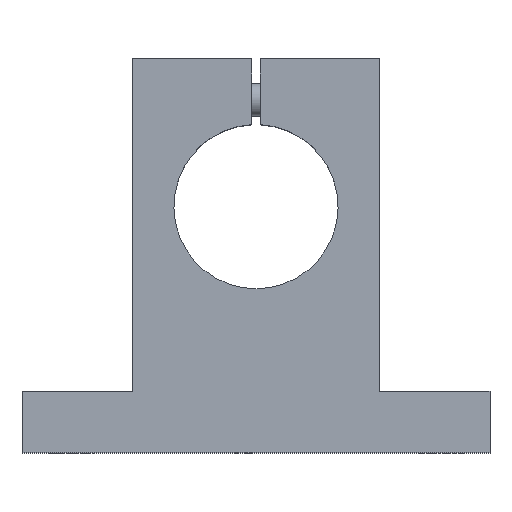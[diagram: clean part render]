
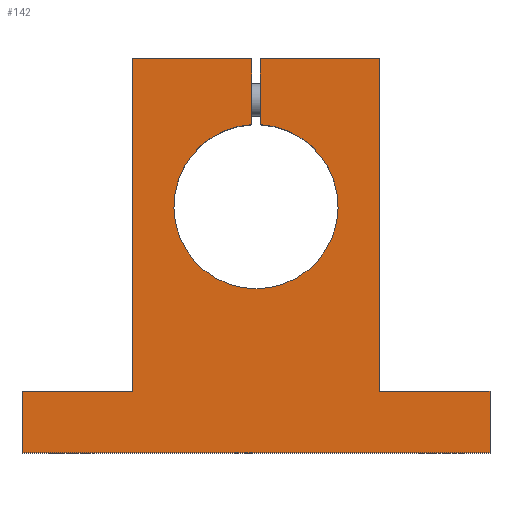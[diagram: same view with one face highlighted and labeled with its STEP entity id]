
A CAD part, top view. The second image highlights one B-rep face of the part: STEP entity #142.
In plain terms, the highlighted planar face has unit normal (0, 0, 1).
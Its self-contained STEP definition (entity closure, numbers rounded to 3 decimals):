
#142=ADVANCED_FACE('',(#210),#211,.F.);
#210=FACE_OUTER_BOUND('',#298,.T.);
#211=PLANE('',#299);
#298=EDGE_LOOP('',(#471,#472,#473,#474,#475,#476,#477,#478,#479,#480,#481,#482));
#299=AXIS2_PLACEMENT_3D('',#483,#484,#485);
#471=ORIENTED_EDGE('',*,*,#599,.T.);
#472=ORIENTED_EDGE('',*,*,#618,.T.);
#473=ORIENTED_EDGE('',*,*,#616,.T.);
#474=ORIENTED_EDGE('',*,*,#613,.T.);
#475=ORIENTED_EDGE('',*,*,#610,.T.);
#476=ORIENTED_EDGE('',*,*,#608,.T.);
#477=ORIENTED_EDGE('',*,*,#604,.T.);
#478=ORIENTED_EDGE('',*,*,#602,.T.);
#479=ORIENTED_EDGE('',*,*,#594,.T.);
#480=ORIENTED_EDGE('',*,*,#619,.T.);
#481=ORIENTED_EDGE('',*,*,#592,.T.);
#482=ORIENTED_EDGE('',*,*,#576,.T.);
#483=CARTESIAN_POINT('',(0.0,0.0,0.0));
#484=DIRECTION('',(0.0,0.0,-1.0));
#485=DIRECTION('',(0.0,-1.0,0.0));
#576=EDGE_CURVE('',#646,#647,#648,.T.);
#592=EDGE_CURVE('',#677,#646,#678,.T.);
#594=EDGE_CURVE('',#680,#681,#682,.T.);
#599=EDGE_CURVE('',#647,#689,#690,.T.);
#602=EDGE_CURVE('',#694,#680,#695,.T.);
#604=EDGE_CURVE('',#697,#694,#698,.T.);
#608=EDGE_CURVE('',#704,#697,#705,.T.);
#610=EDGE_CURVE('',#707,#704,#708,.T.);
#613=EDGE_CURVE('',#712,#707,#713,.T.);
#616=EDGE_CURVE('',#717,#712,#718,.T.);
#618=EDGE_CURVE('',#689,#717,#720,.T.);
#619=EDGE_CURVE('',#681,#677,#721,.T.);
#646=VERTEX_POINT('',#768);
#647=VERTEX_POINT('',#769);
#648=CIRCLE('',#770,20.0);
#677=VERTEX_POINT('',#812);
#678=LINE('',#813,#814);
#680=VERTEX_POINT('',#817);
#681=VERTEX_POINT('',#818);
#682=LINE('',#819,#820);
#689=VERTEX_POINT('',#829);
#690=LINE('',#830,#831);
#694=VERTEX_POINT('',#836);
#695=LINE('',#837,#838);
#697=VERTEX_POINT('',#841);
#698=LINE('',#842,#843);
#704=VERTEX_POINT('',#850);
#705=LINE('',#851,#852);
#707=VERTEX_POINT('',#855);
#708=LINE('',#856,#857);
#712=VERTEX_POINT('',#862);
#713=LINE('',#863,#864);
#717=VERTEX_POINT('',#869);
#718=LINE('',#870,#871);
#720=LINE('',#874,#875);
#721=LINE('',#876,#877);
#768=CARTESIAN_POINT('',(1.0,19.975,0.0));
#769=CARTESIAN_POINT('',(-1.,19.975,0.0));
#770=AXIS2_PLACEMENT_3D('',#975,#976,#977);
#812=CARTESIAN_POINT('',(1.0,36.0,0.0));
#813=CARTESIAN_POINT('',(1.0,36.0,0.0));
#814=VECTOR('',#997,1.0);
#817=CARTESIAN_POINT('',(30.0,-45.0,0.0));
#818=CARTESIAN_POINT('',(30.0,36.0,0.0));
#819=CARTESIAN_POINT('',(30.0,-45.0,0.0));
#820=VECTOR('',#999,1.0);
#829=CARTESIAN_POINT('',(-1.0,36.0,0.0));
#830=CARTESIAN_POINT('',(-1.0,19.975,0.0));
#831=VECTOR('',#1008,1.0);
#836=CARTESIAN_POINT('',(57.0,-45.0,0.0));
#837=CARTESIAN_POINT('',(57.0,-45.0,0.0));
#838=VECTOR('',#1013,1.0);
#841=CARTESIAN_POINT('',(57.0,-60.0,0.0));
#842=CARTESIAN_POINT('',(57.0,-60.0,0.0));
#843=VECTOR('',#1015,1.0);
#850=CARTESIAN_POINT('',(-57.0,-60.0,0.0));
#851=CARTESIAN_POINT('',(-57.0,-60.0,0.0));
#852=VECTOR('',#1023,1.0);
#855=CARTESIAN_POINT('',(-57.0,-45.0,0.0));
#856=CARTESIAN_POINT('',(-57.0,-45.0,0.0));
#857=VECTOR('',#1025,1.0);
#862=CARTESIAN_POINT('',(-30.0,-45.0,0.0));
#863=CARTESIAN_POINT('',(-30.0,-45.0,0.0));
#864=VECTOR('',#1030,1.0);
#869=CARTESIAN_POINT('',(-30.0,36.0,0.0));
#870=CARTESIAN_POINT('',(-30.0,36.0,0.0));
#871=VECTOR('',#1035,1.0);
#874=CARTESIAN_POINT('',(-1.0,36.0,0.0));
#875=VECTOR('',#1037,1.0);
#876=CARTESIAN_POINT('',(30.0,36.0,0.0));
#877=VECTOR('',#1038,1.0);
#975=CARTESIAN_POINT('',(0.0,0.0,0.0));
#976=DIRECTION('',(0.0,0.0,-1.0));
#977=DIRECTION('',(1.0,0.0,0.0));
#997=DIRECTION('',(0.0,-1.0,0.0));
#999=DIRECTION('',(0.0,1.0,0.0));
#1008=DIRECTION('',(0.0,1.0,0.0));
#1013=DIRECTION('',(-1.0,0.0,0.0));
#1015=DIRECTION('',(0.0,1.0,0.0));
#1023=DIRECTION('',(1.0,0.0,0.0));
#1025=DIRECTION('',(0.0,-1.0,0.0));
#1030=DIRECTION('',(-1.0,0.0,0.0));
#1035=DIRECTION('',(0.0,-1.0,0.0));
#1037=DIRECTION('',(-1.0,0.0,0.0));
#1038=DIRECTION('',(-1.0,0.0,0.0));
